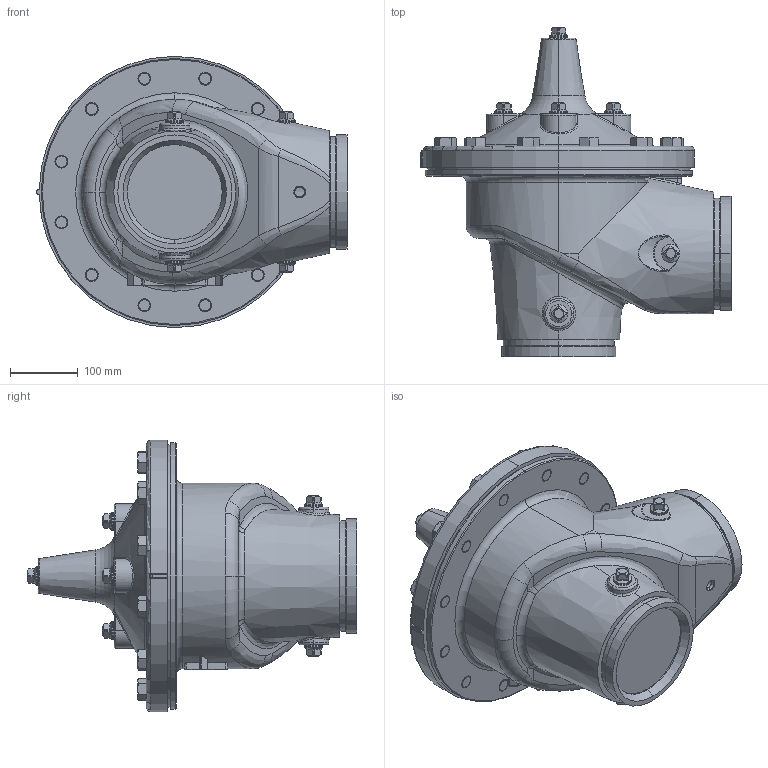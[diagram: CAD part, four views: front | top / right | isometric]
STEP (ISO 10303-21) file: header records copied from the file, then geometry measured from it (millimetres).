
FILE_DESCRIPTION (( 'STEP AP203' ), '1' );
FILE_NAME ('6in 2100-01 Main Valve, 300V.STEP', '2023-11-08T16:37:18', ( '' ), ( '' ), 'SwSTEP 2.0', 'SolidWorks 2022', '' );
FILE_SCHEMA (( 'CONFIG_CONTROL_DESIGN' ));
Length unit declared in the file: inch
Products named in the file (6): 203715 6in Body Angle 150-300VA (fake)_DUCTILE IRON; Bolt .750-10 UNC  (67609)_1.75   67609-04A; Diaphragm, 6in 100-01, 150 (.125 thk); 6in Cover (BLUE) with 2 or 4 Bosses Drld_2 BOSSES TAPPED; .750 NPT PIPE PLUG (67660)_Default STEEL, CAD PL; 6in 2100-01 Main Valve, 300V
Assembly tree (24 placements, depth 2):
  6in 2100-01 Main Valve, 300V
    203715 6in Body Angle 150-300VA (fake)_DUCTILE IRON
    6in Cover (BLUE) with 2 or 4 Bosses Drld_2 BOSSES TAPPED
    Bolt .750-10 UNC  (67609)_1.75   67609-04A  x12
    .750 NPT PIPE PLUG (67660)_Default STEEL, CAD PL  x9
    Diaphragm, 6in 100-01, 150 (.125 thk)
Bounding box: 457.2 x 486.41 x 400.05 mm (x, y, z)
Volume: 11990363.8 mm3; surface area: 1579342.9 mm2
Topology: 24 solids, 24 shells, 1748 faces, 3911 edges, 2195 vertices
Faces by surface type: cone 569, cylinder 324, plane 300, bspline 280, torus 172, sphere 103
Entity records: 37465 total; most frequent: CARTESIAN_POINT 20641, ORIENTED_EDGE 3386, DIRECTION 3179, EDGE_CURVE 1693, AXIS2_PLACEMENT_3D 1383, VERTEX_POINT 1017, EDGE_LOOP 824, CIRCLE 793
